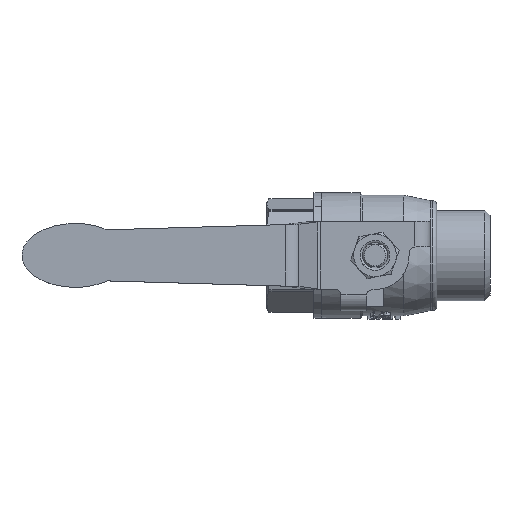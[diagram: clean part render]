
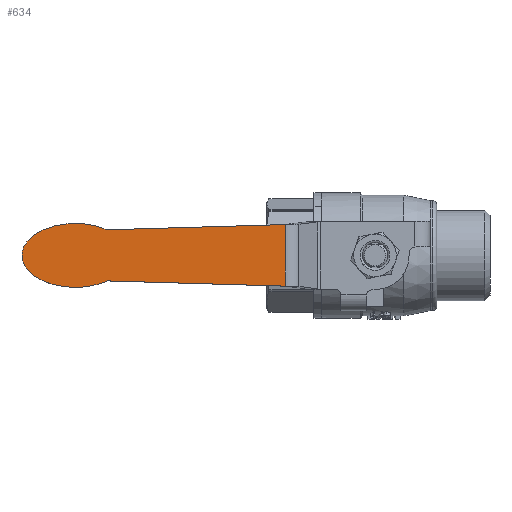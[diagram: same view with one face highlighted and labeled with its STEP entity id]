
A CAD part, top view. The second image highlights one B-rep face of the part: STEP entity #634.
In plain terms, the highlighted planar face has unit normal (0, 0, 1).
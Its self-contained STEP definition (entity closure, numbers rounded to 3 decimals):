
#441=PLANE('',#5221);
#618=(
BOUNDED_CURVE()
B_SPLINE_CURVE(3,(#7002,#7003,#7004,#7005),.UNSPECIFIED.,.F.,.F.)
B_SPLINE_CURVE_WITH_KNOTS((4,4),(0.,1.),.UNSPECIFIED.)
CURVE()
GEOMETRIC_REPRESENTATION_ITEM()
RATIONAL_B_SPLINE_CURVE((1.,0.631,0.631,1.))
REPRESENTATION_ITEM('')
);
#620=(
BOUNDED_CURVE()
B_SPLINE_CURVE(3,(#7113,#7114,#7115,#7116),.UNSPECIFIED.,.F.,.F.)
B_SPLINE_CURVE_WITH_KNOTS((4,4),(0.,1.),.UNSPECIFIED.)
CURVE()
GEOMETRIC_REPRESENTATION_ITEM()
RATIONAL_B_SPLINE_CURVE((1.,0.631,0.631,1.))
REPRESENTATION_ITEM('')
);
#634=ADVANCED_FACE('',(#1030),#441,.T.);
#1030=FACE_OUTER_BOUND('',#1317,.T.);
#1317=EDGE_LOOP('',(#2280,#2281,#2282,#2283,#2284));
#1682=LINE('',#7109,#1963);
#1684=LINE('',#7136,#1965);
#1685=LINE('',#7138,#1966);
#1963=VECTOR('',#5774,1.);
#1965=VECTOR('',#5778,1.);
#1966=VECTOR('',#5781,1.);
#2280=ORIENTED_EDGE('',*,*,#4252,.F.);
#2281=ORIENTED_EDGE('',*,*,#4251,.T.);
#2282=ORIENTED_EDGE('',*,*,#4204,.T.);
#2283=ORIENTED_EDGE('',*,*,#4249,.T.);
#2284=ORIENTED_EDGE('',*,*,#4247,.T.);
#3727=VERTEX_POINT('',#7001);
#3728=VERTEX_POINT('',#7006);
#3762=VERTEX_POINT('',#7108);
#3763=VERTEX_POINT('',#7110);
#3764=VERTEX_POINT('',#7135);
#4204=EDGE_CURVE('',#3728,#3727,#618,.T.);
#4247=EDGE_CURVE('',#3763,#3762,#1682,.T.);
#4249=EDGE_CURVE('',#3727,#3763,#620,.T.);
#4251=EDGE_CURVE('',#3764,#3728,#1684,.T.);
#4252=EDGE_CURVE('',#3764,#3762,#1685,.T.);
#5221=AXIS2_PLACEMENT_3D('',#7139,#5782,#5783);
#5774=DIRECTION('',(1.,-0.029,0.));
#5778=DIRECTION('',(-1.,-0.029,0.));
#5781=DIRECTION('',(0.,-1.,0.));
#5782=DIRECTION('',(0.,0.,1.));
#5783=DIRECTION('',(-1.,0.,0.));
#7001=CARTESIAN_POINT('',(-70.739,-0.014,37.331));
#7002=CARTESIAN_POINT('',(-50.739,5.986,37.331));
#7003=CARTESIAN_POINT('',(-60.182,10.236,37.331));
#7004=CARTESIAN_POINT('',(-70.739,7.068,37.331));
#7005=CARTESIAN_POINT('',(-70.739,-0.014,37.331));
#7006=CARTESIAN_POINT('',(-50.739,5.986,37.331));
#7108=CARTESIAN_POINT('',(-8.951,-7.243,37.331));
#7109=CARTESIAN_POINT('',(-50.739,-6.014,37.331));
#7110=CARTESIAN_POINT('',(-50.739,-6.014,37.331));
#7113=CARTESIAN_POINT('',(-70.739,-0.014,37.331));
#7114=CARTESIAN_POINT('',(-70.739,-7.096,37.331));
#7115=CARTESIAN_POINT('',(-60.182,-10.263,37.331));
#7116=CARTESIAN_POINT('',(-50.739,-6.014,37.331));
#7135=CARTESIAN_POINT('',(-8.951,7.215,37.331));
#7136=CARTESIAN_POINT('',(-50.739,5.986,37.331));
#7138=CARTESIAN_POINT('',(-8.951,-0.014,37.331));
#7139=CARTESIAN_POINT('',(-58.239,-0.014,37.331));
